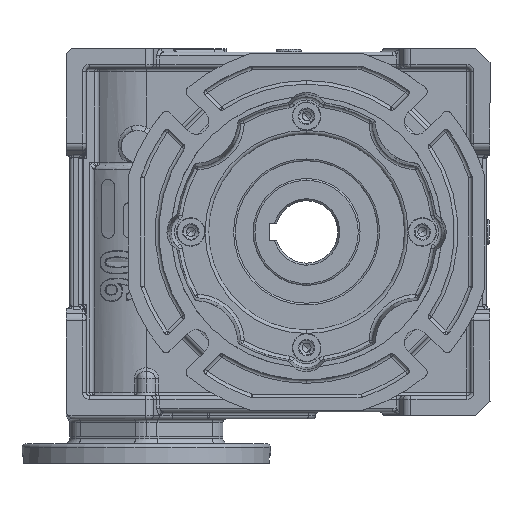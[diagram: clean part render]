
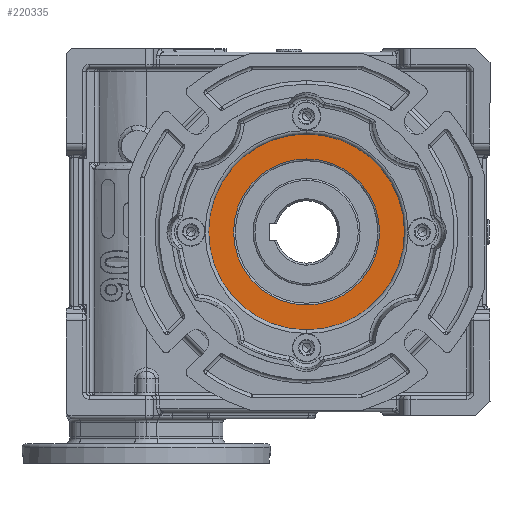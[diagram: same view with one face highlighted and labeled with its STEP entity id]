
A CAD part, left-side view. The second image highlights one B-rep face of the part: STEP entity #220335.
In plain terms, the highlighted planar face has unit normal (-1, 0, 0).
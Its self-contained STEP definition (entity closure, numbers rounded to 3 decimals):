
#98886 = EDGE_CURVE ( 'NONE', #98890, #98897, #257363, .T. ) ;
#98890 = VERTEX_POINT ( 'NONE', #257350 ) ;
#98897 = VERTEX_POINT ( 'NONE', #257325 ) ;
#101841 = CARTESIAN_POINT ( 'NONE',  ( -70., 0., 41. ) ) ;
#101845 = DIRECTION ( 'NONE',  ( 0., 0., 1. ) ) ;
#101848 = DIRECTION ( 'NONE',  ( -1., 0., 0. ) ) ;
#101849 = CARTESIAN_POINT ( 'NONE',  ( -70., 0., 0. ) ) ;
#101851 = AXIS2_PLACEMENT_3D ( 'NONE', #101849, #101848, #101845 ) ;
#101853 = CIRCLE ( 'NONE', #101851, 41. ) ;
#101863 = CARTESIAN_POINT ( 'NONE',  ( -70., 0., -41. ) ) ;
#220335 = ADVANCED_FACE ( 'NONE', ( #335890, #335889 ), #335995, .T. ) ;
#220340 = EDGE_LOOP ( 'NONE', ( #220345, #220427 ) ) ;
#220345 = ORIENTED_EDGE ( 'NONE', *, *, #98886, .F. ) ;
#220427 = ORIENTED_EDGE ( 'NONE', *, *, #220431, .F. ) ;
#220431 = EDGE_CURVE ( 'NONE', #98897, #98890, #336224, .T. ) ;
#220434 = EDGE_LOOP ( 'NONE', ( #220444, #220453 ) ) ;
#220444 = ORIENTED_EDGE ( 'NONE', *, *, #220450, .F. ) ;
#220450 = EDGE_CURVE ( 'NONE', #298804, #298794, #336308, .T. ) ;
#220453 = ORIENTED_EDGE ( 'NONE', *, *, #298801, .F. ) ;
#257325 = CARTESIAN_POINT ( 'NONE',  ( -70., 0., 55. ) ) ;
#257350 = CARTESIAN_POINT ( 'NONE',  ( -70., 0., -55. ) ) ;
#257353 = DIRECTION ( 'NONE',  ( 0., 0., -1. ) ) ;
#257356 = DIRECTION ( 'NONE',  ( 1., 0., 0. ) ) ;
#257359 = CARTESIAN_POINT ( 'NONE',  ( -70., 0., 0. ) ) ;
#257360 = AXIS2_PLACEMENT_3D ( 'NONE', #257359, #257356, #257353 ) ;
#257363 = CIRCLE ( 'NONE', #257360, 55. ) ;
#298794 = VERTEX_POINT ( 'NONE', #101863 ) ;
#298801 = EDGE_CURVE ( 'NONE', #298794, #298804, #101853, .T. ) ;
#298804 = VERTEX_POINT ( 'NONE', #101841 ) ;
#335889 = FACE_BOUND ( 'NONE', #220434, .T. ) ;
#335890 = FACE_OUTER_BOUND ( 'NONE', #220340, .T. ) ;
#335984 = DIRECTION ( 'NONE',  ( 0., 0., -1. ) ) ;
#335986 = DIRECTION ( 'NONE',  ( -1., 0., 0. ) ) ;
#335988 = CARTESIAN_POINT ( 'NONE',  ( -70., 0., 0. ) ) ;
#335989 = AXIS2_PLACEMENT_3D ( 'NONE', #335988, #335986, #335984 ) ;
#335995 = PLANE ( 'NONE',  #335989 ) ;
#336217 = DIRECTION ( 'NONE',  ( 0., 0., -1. ) ) ;
#336219 = DIRECTION ( 'NONE',  ( 1., 0., 0. ) ) ;
#336221 = CARTESIAN_POINT ( 'NONE',  ( -70., 0., 0. ) ) ;
#336222 = AXIS2_PLACEMENT_3D ( 'NONE', #336221, #336219, #336217 ) ;
#336224 = CIRCLE ( 'NONE', #336222, 55. ) ;
#336303 = DIRECTION ( 'NONE',  ( 0., 0., 1. ) ) ;
#336305 = DIRECTION ( 'NONE',  ( -1., 0., 0. ) ) ;
#336307 = AXIS2_PLACEMENT_3D ( 'NONE', #336323, #336305, #336303 ) ;
#336308 = CIRCLE ( 'NONE', #336307, 41. ) ;
#336323 = CARTESIAN_POINT ( 'NONE',  ( -70., 0., 0. ) ) ;
